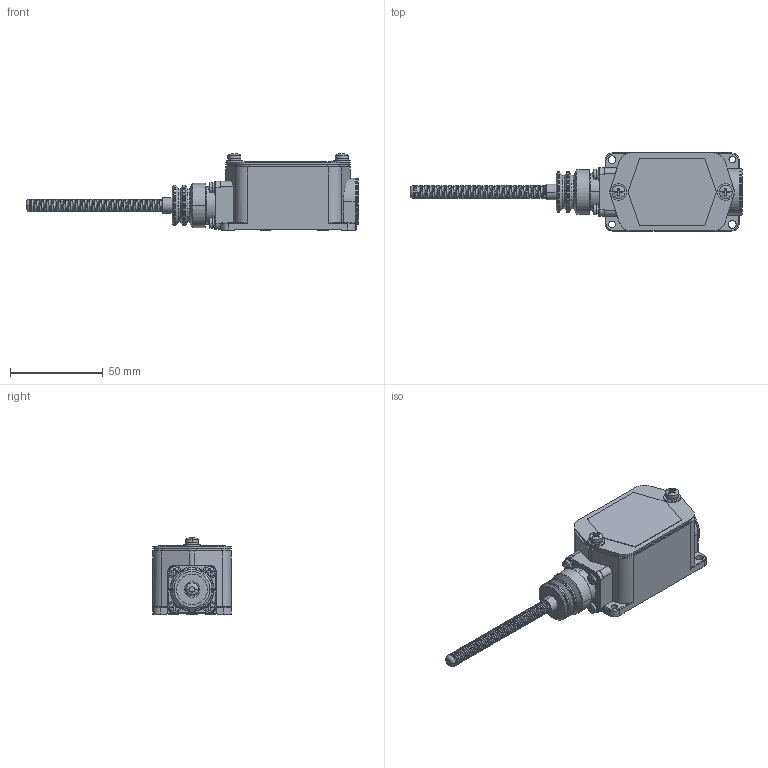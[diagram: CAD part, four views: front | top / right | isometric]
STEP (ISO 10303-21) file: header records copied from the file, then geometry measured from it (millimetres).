
FILE_DESCRIPTION((''),'2;1');
FILE_NAME('5111111','2022-03-01T',('qinxiong.ji'),(''),'PRO/ENGINEER BY PARAMETRIC TECHNOLOGY CORPORATION, 2015440','PRO/ENGINEER BY PARAMETRIC TECHNOLOGY CORPORATION, 2015440','');
FILE_SCHEMA(('CONFIG_CONTROL_DESIGN'));
Products named in the file (1): 5111111
Bounding box: 179.4 x 42.2 x 41.32 mm (x, y, z)
Volume: 41776.7 mm3; surface area: 36087.5 mm2
Topology: 1 solids, 2 shells, 577 faces, 1370 edges, 846 vertices
Faces by surface type: plane 275, cylinder 180, torus 41, cone 34, bspline 33, sphere 14
Entity records: 55034 total; most frequent: CARTESIAN_POINT 41517, DIRECTION 2927, ORIENTED_EDGE 2740, EDGE_CURVE 1370, AXIS2_PLACEMENT_3D 1131, VERTEX_POINT 846, VECTOR 665, LINE 665
